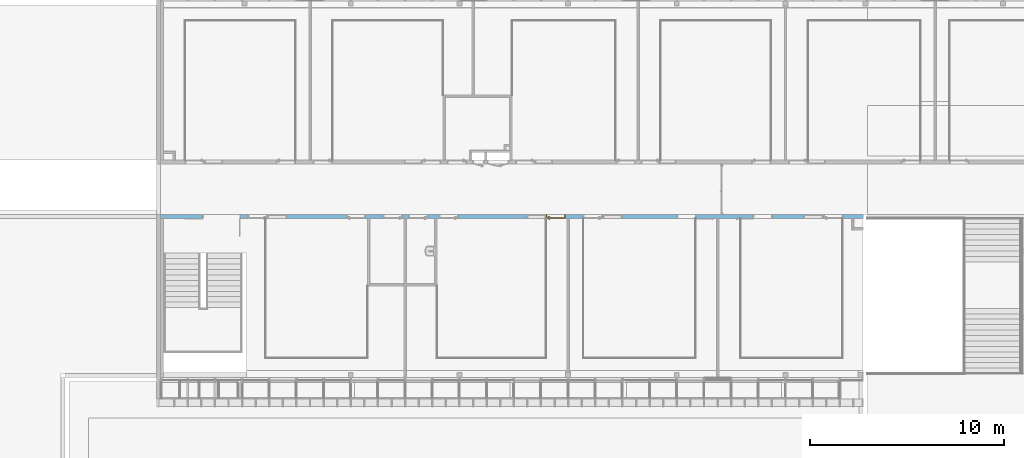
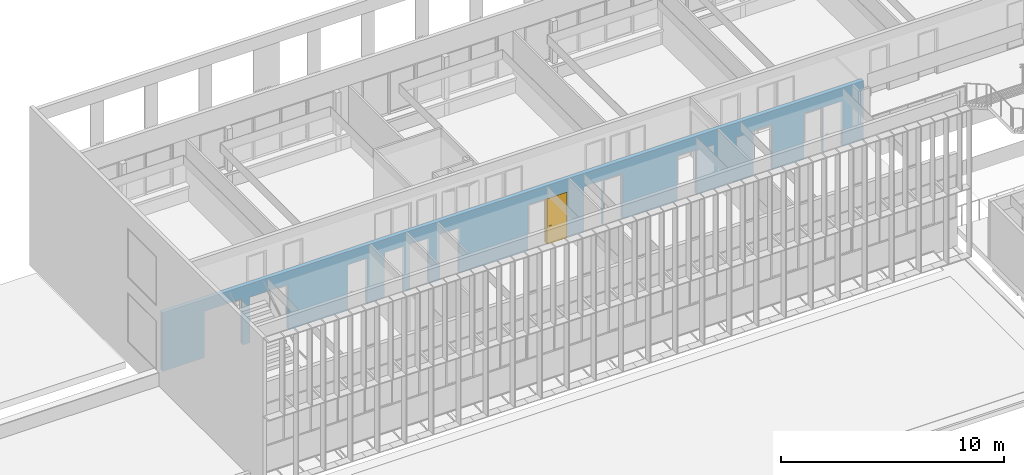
# One storey, part 43 of 106: 1 door, 15 openings, plus 1 element that does not belong to this part.
"""IFC2X3 building model written with IfcOpenShell, lengths in centimetres."""

from ifc_helpers import new_model, entity, si_unit, converted_unit, derived_unit, direction, frame, frame_2d, origin, place, context, subcontext, project, spatial, polyline, rectangle, extrude, clip, bounded_halfspace, faceted_brep, source, transform, mapped, material, material_list, layer, layer_set, layer_usage, type_object, type_shapes, element, fill, save


model = new_model("IFC2X3")

# Units and contexts
model_context = context("Model", 3, precision=0.001, world=origin(), true_north=direction((6.12303176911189e-17, 1.0)))
body_context = subcontext(model_context, "Body", "Model", "MODEL_VIEW")
ifc_project = project(units=[si_unit("LENGTHUNIT", "METRE", prefix="CENTI"), si_unit("AREAUNIT", "SQUARE_METRE"), si_unit("VOLUMEUNIT", "CUBIC_METRE"), converted_unit("PLANEANGLEUNIT", "DEGREE", entity("IfcRatioMeasure", 0.0174532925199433), si_unit("PLANEANGLEUNIT", "RADIAN"), dimensions=[0, 0, 0, 0, 0, 0, 0]), si_unit("MASSUNIT", "GRAM", prefix="KILO"), derived_unit("MASSDENSITYUNIT", [(si_unit("MASSUNIT", "GRAM", prefix="KILO"), 1), (si_unit("LENGTHUNIT", "METRE"), -3)]), si_unit("TIMEUNIT", "SECOND"), si_unit("FREQUENCYUNIT", "HERTZ"), si_unit("THERMODYNAMICTEMPERATUREUNIT", "DEGREE_CELSIUS"), derived_unit("THERMALTRANSMITTANCEUNIT", [(si_unit("MASSUNIT", "GRAM", prefix="KILO"), 1), (si_unit("THERMODYNAMICTEMPERATUREUNIT", "KELVIN"), -1), (si_unit("TIMEUNIT", "SECOND"), -3)]), derived_unit("VOLUMETRICFLOWRATEUNIT", [(si_unit("LENGTHUNIT", "METRE"), 3), (si_unit("TIMEUNIT", "SECOND"), -1)]), si_unit("ELECTRICCURRENTUNIT", "AMPERE"), si_unit("ELECTRICVOLTAGEUNIT", "VOLT"), si_unit("POWERUNIT", "WATT"), si_unit("FORCEUNIT", "NEWTON", prefix="KILO"), si_unit("ILLUMINANCEUNIT", "LUX"), si_unit("LUMINOUSFLUXUNIT", "LUMEN"), si_unit("LUMINOUSINTENSITYUNIT", "CANDELA"), derived_unit("USERDEFINED", [(si_unit("MASSUNIT", "GRAM", prefix="KILO"), -1), (si_unit("LENGTHUNIT", "METRE"), -2), (si_unit("TIMEUNIT", "SECOND"), 3), (si_unit("LUMINOUSFLUXUNIT", "LUMEN"), 1)]), derived_unit("LINEARVELOCITYUNIT", [(si_unit("LENGTHUNIT", "METRE"), 1), (si_unit("TIMEUNIT", "SECOND"), -1)]), si_unit("PRESSUREUNIT", "PASCAL"), derived_unit("USERDEFINED", [(si_unit("LENGTHUNIT", "METRE"), -2), (si_unit("MASSUNIT", "GRAM", prefix="KILO"), 1), (si_unit("TIMEUNIT", "SECOND"), -2)])], contexts=[model_context])

# Site, building, storey
site_placement = place(None, frame((-2781.94577612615, 7442.24238424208, 0.0)))
site = spatial("IfcSite", under=ifc_project, at=site_placement, Name="Default", CompositionType="ELEMENT")
building_placement = place(site_placement, origin())
building = spatial("IfcBuilding", under=site, at=building_placement, CompositionType="ELEMENT")
storey_placement = place(building_placement, frame((0.0, 0.0, 422.0)))
storey = spatial("IfcBuildingStorey", under=building, at=storey_placement, Name="Toiture - Cuisine", CompositionType="ELEMENT", Elevation=421.999999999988)

# Wall, openings, door
ifc_material_1 = material(Name="01 - Maçonnerie")
ifc_layer = layer(ifc_material_1, 20.0)
ifc_layer_set = layer_set([ifc_layer], Name="Mur de base:04 - Structure - béton - 20cm")
ifc_layer_usage = layer_usage(ifc_layer_set, "AXIS2", "NEGATIVE", 10.0)
wall_type = type_object("IfcWallType", Name="Mur de base:04 - Structure - béton - 20cm", PredefinedType="STANDARD", material=ifc_layer_set)
wall_placement = place(building_placement, frame((-4787.99987760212, -1100.0, 422.0), z_axis=(0.0, 0.0, 1.0), x_axis=(-1.0, 0.0, 0.0)))
wall = element("IfcWallStandardCase", 1, at=wall_placement, inside=storey, type_object=wall_type, material=ifc_layer_usage, Name="Mur de base:04 - Structure - béton - 20cm", ObjectType="Mur de base:04 - Structure - béton - 20cm", context=body_context, shape_type="Clipping", body=[
    clip(extrude(rectangle(XDim=3621.50000006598, YDim=20.0000000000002, at=frame_2d((1810.75000003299, 5.32907051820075e-14), x_axis=(-1.0, 0.0))), origin(), (0.0, 0.0, 1.0), 321.0), bounded_halfspace(frame((4.0, -10.0, 321.0), z_axis=(0.0, 0.0, -1.0), x_axis=(0.0, -1.0, 0.0)), True, frame((4.0, -10.0, 321.0)), polyline([(0.0, 0.0), (720.0, 0.0), (730.0, 0.0), (3617.50000006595, 0.0), (3617.50000006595, 20.0), (3602.20000006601, 20.0), (3077.50016406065, 20.0), (3075.50016406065, 20.0), (2550.5, 20.0), (2540.5, 20.0), (2362.50000003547, 20.0), (2352.50000003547, 20.0), (2203.5, 20.0), (2193.5, 20.0), (1632.5, 20.0), (1630.5, 20.0), (1522.50016406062, 20.0), (1512.50016406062, 20.0), (1440.5, 20.0), (1438.5, 20.0), (862.500000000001, 20.0), (860.5, 20.0), (750.500000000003, 20.0), (740.500000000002, 20.0), (630.500000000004, 20.0), (628.500000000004, 20.0), (104.500000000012, 20.0), (102.500000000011, 20.0), (56.0, 20.0), (46.0, 20.0), (0.0, 20.0), (0.0, 0.0)]))),
])
opening_1_placement = place(wall_placement, frame((3071.50016406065, -10.0, 0.0)))
element("IfcOpeningElement", 2, at=opening_1_placement, cuts=wall, Name="Int. Simple:PV (0.93m x 2.50m):1", ObjectType="Opening", context=body_context, shape_type="SweptSolid", body=[
    extrude(rectangle(XDim=248.500000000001, YDim=99.9999999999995, at=frame_2d((124.250000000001, 49.9999999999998), x_axis=(1.0, 0.0))), frame((0.0, 0.0, 0.0), z_axis=(0.0, 1.0, 0.0), x_axis=(0.0, 0.0, 1.0)), (0.0, 0.0, 1.0), 20.0),
])
opening_2_placement = place(wall_placement, frame((1534.5, -10.0, 0.0)))
opening_2 = element("IfcOpeningElement", 3, at=opening_2_placement, cuts=wall, Name="Int. Simple:PV (0.93m x 2.50m):1", ObjectType="Opening", context=body_context, shape_type="SweptSolid", body=[
    extrude(rectangle(XDim=248.500000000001, YDim=99.9999999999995, at=frame_2d((124.250000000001, 50.0), x_axis=(1.0, 0.0))), frame((0.0, 0.0, 0.0), z_axis=(0.0, 1.0, 0.0), x_axis=(0.0, 0.0, 1.0)), (0.0, 0.0, 1.0), 20.0),
])
opening_3_placement = place(wall_placement, frame((861.500000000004, -10.0, 0.0)))
element("IfcOpeningElement", 4, at=opening_3_placement, cuts=wall, Name="Int. Simple:PV (0.93m x 2.50m):1", ObjectType="Opening", context=body_context, shape_type="SweptSolid", body=[
    extrude(rectangle(XDim=248.500000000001, YDim=99.9999999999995, at=frame_2d((124.250000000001, 50.0), x_axis=(1.0, 0.0))), frame((0.0, 0.0, 0.0), z_axis=(0.0, 1.0, 0.0), x_axis=(0.0, 0.0, 1.0)), (0.0, 0.0, 1.0), 20.0),
])
opening_4_placement = place(wall_placement, frame((469.500000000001, -10.0, 0.0)))
element("IfcOpeningElement", 5, at=opening_4_placement, cuts=wall, Name="Int. Simple:PV (0.93m x 2.50m):1", ObjectType="Opening", context=body_context, shape_type="SweptSolid", body=[
    extrude(rectangle(XDim=248.500000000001, YDim=99.9999999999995, at=frame_2d((124.250000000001, 49.9999999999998), x_axis=(1.0, 0.0))), frame((0.0, 0.0, 0.0), z_axis=(0.0, 1.0, 0.0), x_axis=(0.0, 0.0, 1.0)), (0.0, 0.0, 1.0), 20.0),
])
opening_5_placement = place(wall_placement, frame((2971.50016406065, -10.0, 0.0)))
element("IfcOpeningElement", 6, at=opening_5_placement, cuts=wall, Name="châssis intérieur vitré:châssis intérieur vitré (h=270) R+1:1", ObjectType="Opening", context=body_context, shape_type="SweptSolid", body=[
    extrude(rectangle(XDim=250.0, YDim=99.9999999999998, at=frame_2d((125.0, 49.9999999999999), x_axis=(1.0, 0.0))), frame((0.0, 0.0, 0.0), z_axis=(0.0, 1.0, 0.0), x_axis=(0.0, 0.0, 1.0)), (0.0, 0.0, 1.0), 20.0),
])
opening_6_placement = place(wall_placement, frame((1634.50000000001, -10.0, 0.0)))
element("IfcOpeningElement", 7, at=opening_6_placement, cuts=wall, Name="châssis intérieur vitré:châssis intérieur vitré (h=270) R+1:1", ObjectType="Opening", context=body_context, shape_type="SweptSolid", body=[
    extrude(rectangle(XDim=250.0, YDim=99.9999999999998, at=frame_2d((125.0, 49.9999999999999), x_axis=(1.0, 0.0))), frame((0.0, 0.0, 0.0), z_axis=(0.0, 1.0, 0.0), x_axis=(0.0, 0.0, 1.0)), (0.0, 0.0, 1.0), 20.0),
])
opening_7_placement = place(wall_placement, frame((1243.0, -10.0, 0.0)))
element("IfcOpeningElement", 8, at=opening_7_placement, cuts=wall, Name="châssis intérieur vitré:châssis intérieur vitré (h=270) R+1:1", ObjectType="Opening", context=body_context, shape_type="SweptSolid", body=[
    extrude(rectangle(XDim=250.0, YDim=99.9999999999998, at=frame_2d((125.0, 49.9999999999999), x_axis=(1.0, 0.0))), frame((0.0, 0.0, 0.0), z_axis=(0.0, 1.0, 0.0), x_axis=(0.0, 0.0, 1.0)), (0.0, 0.0, 1.0), 20.0),
])
opening_8_placement = place(wall_placement, frame((208.0, -10.0, 0.0)))
element("IfcOpeningElement", 9, at=opening_8_placement, cuts=wall, Name="châssis intérieur vitré:châssis intérieur vitré (h=270) R+1:1", ObjectType="Opening", context=body_context, shape_type="SweptSolid", body=[
    extrude(rectangle(XDim=250.0, YDim=99.9999999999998, at=frame_2d((125.0, 49.9999999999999), x_axis=(1.0, 0.0))), frame((0.0, 0.0, 0.0), z_axis=(0.0, 1.0, 0.0), x_axis=(0.0, 0.0, 1.0)), (0.0, 0.0, 1.0), 20.0),
])
opening_9_placement = place(wall_placement, frame((2564.5, -10.0, 0.0)))
element("IfcOpeningElement", 10, at=opening_9_placement, cuts=wall, Name="Int. Simple:PV (0.93m x 2.50m):1", ObjectType="Opening", context=body_context, shape_type="SweptSolid", body=[
    extrude(rectangle(XDim=248.500000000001, YDim=99.9999999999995, at=frame_2d((124.250000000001, 50.0), x_axis=(1.0, 0.0))), frame((0.0, 0.0, 0.0), z_axis=(0.0, 1.0, 0.0), x_axis=(0.0, 0.0, 1.0)), (0.0, 0.0, 1.0), 20.0),
])
opening_10_placement = place(wall_placement, frame((2374.5, -10.0, 0.0)))
element("IfcOpeningElement", 11, at=opening_10_placement, cuts=wall, Name="Int. Simple:PP simple (0.93m x 2.50m):1", ObjectType="Opening", context=body_context, shape_type="SweptSolid", body=[
    extrude(rectangle(XDim=248.500000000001, YDim=99.9999999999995, at=frame_2d((124.250000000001, 49.9999999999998), x_axis=(1.0, 0.0))), frame((0.0, 0.0, 0.0), z_axis=(0.0, 1.0, 0.0), x_axis=(0.0, 0.0, 1.0)), (0.0, 0.0, 1.0), 20.0),
])
opening_11_placement = place(wall_placement, frame((2244.5, -10.0, 0.0)))
element("IfcOpeningElement", 12, at=opening_11_placement, cuts=wall, Name="Int. Simple:PP simple (0.93m x 2.50m):1", ObjectType="Opening", context=body_context, shape_type="SweptSolid", body=[
    extrude(rectangle(XDim=248.500000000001, YDim=99.9999999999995, at=frame_2d((124.250000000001, 49.9999999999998), x_axis=(1.0, 0.0))), frame((0.0, 0.0, 0.0), z_axis=(0.0, 1.0, 0.0), x_axis=(0.0, 0.0, 1.0)), (0.0, 0.0, 1.0), 20.0),
])
opening_12_placement = place(wall_placement, frame((2087.5, -10.0, 0.0)))
element("IfcOpeningElement", 13, at=opening_12_placement, cuts=wall, Name="Int. Simple:PV (0.93m x 2.50m):1", ObjectType="Opening", context=body_context, shape_type="SweptSolid", body=[
    extrude(rectangle(XDim=248.500000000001, YDim=99.9999999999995, at=frame_2d((124.250000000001, 49.9999999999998), x_axis=(1.0, 0.0))), frame((0.0, 0.0, 0.0), z_axis=(0.0, 1.0, 0.0), x_axis=(0.0, 0.0, 1.0)), (0.0, 0.0, 1.0), 20.0),
])
opening_13_placement = place(wall_placement, frame((1344.5, -10.0, 0.0)))
element("IfcOpeningElement", 14, at=opening_13_placement, cuts=wall, Name="Int. Simple:PV (0.93m x 2.50m):1", ObjectType="Opening", context=body_context, shape_type="SweptSolid", body=[
    extrude(rectangle(XDim=248.500000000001, YDim=99.9999999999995, at=frame_2d((124.250000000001, 49.9999999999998), x_axis=(1.0, 0.0))), frame((0.0, 0.0, 0.0), z_axis=(0.0, 1.0, 0.0), x_axis=(0.0, 0.0, 1.0)), (0.0, 0.0, 1.0), 20.0),
])
opening_14_placement = place(wall_placement, frame((106.500000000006, -10.0, 0.0)))
element("IfcOpeningElement", 15, at=opening_14_placement, cuts=wall, Name="Int. Simple:PV (0.93m x 2.50m):1", ObjectType="Opening", context=body_context, shape_type="SweptSolid", body=[
    extrude(rectangle(XDim=248.500000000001, YDim=99.9999999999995, at=frame_2d((124.250000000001, 50.0), x_axis=(1.0, 0.0))), frame((0.0, 0.0, 0.0), z_axis=(0.0, 1.0, 0.0), x_axis=(0.0, 0.0, 1.0)), (0.0, 0.0, 1.0), 20.0),
])
opening_15_placement = place(wall_placement, frame((3208.50000000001, -10.0, 0.0)))
element("IfcOpeningElement", 16, at=opening_15_placement, cuts=wall, Name="Int. Double:PP (1.90m x 2.50m):1", ObjectType="Opening", context=body_context, shape_type="SweptSolid", body=[
    extrude(rectangle(XDim=253.500000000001, YDim=197.0, at=frame_2d((126.750000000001, 98.5), x_axis=(1.0, 0.0))), frame((0.0, 0.0, 0.0), z_axis=(0.0, 1.0, 0.0), x_axis=(0.0, 0.0, 1.0)), (0.0, 0.0, 1.0), 20.0),
])
ifc_material_2 = material(Name="Finition Peinture - Blanc satiné")
ifc_material_3 = material(Name="Bois - Panneau de porte")
ifc_material_4 = material(Name="Bois - Cadre de porte")
ifc_material_list_1 = material_list([ifc_material_2, ifc_material_3, ifc_material_4])
ifc_material_list_2 = material_list([ifc_material_2, ifc_material_3, ifc_material_4])
door_style = type_object("IfcDoorStyle", Name="PV (0.93m x 2.50m)", ConstructionType="NOTDEFINED", OperationType="SINGLE_SWING_LEFT", ParameterTakesPrecedence=False, Sizeable=False, material=ifc_material_list_2)
shared_shape = source(origin(), body_context, "Body", "Brep", [
    faceted_brep([(10.5352761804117, -0.500000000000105, 86.6003983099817), (11.5000000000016, -0.500000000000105, 87.0), (11.5000000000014, -0.500000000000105, 108.0), (10.5352761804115, -0.500000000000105, 108.399601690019), (9.50000000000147, -0.500000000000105, 108.535898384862), (8.46472381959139, -0.500000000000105, 108.399601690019), (7.50000000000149, -0.500000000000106, 108.0), (7.50000000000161, -0.500000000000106, 87.0), (8.46472381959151, -0.500000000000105, 86.6003983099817), (9.50000000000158, -0.500000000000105, 86.464101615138), (10.5352761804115, 0.0, 108.399601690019), (11.5000000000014, 0.0, 108.0), (11.5000000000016, 0.0, 87.0), (10.5352761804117, 0.0, 86.6003983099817), (9.50000000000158, 0.0, 86.464101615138), (8.46472381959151, 0.0, 86.6003983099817), (7.50000000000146, 0.0, 87.0), (7.50000000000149, 0.0, 108.0), (8.46472381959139, 0.0, 108.399601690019), (9.50000000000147, 0.0, 108.535898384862)], [[[0, 1, 2, 3, 4, 5, 6, 7, 8, 9]], [[10, 11, 12, 13, 14, 15, 16, 17, 18, 19]], [[16, 15, 8, 7]], [[8, 15, 14, 9]], [[14, 13, 0, 9]], [[13, 12, 1, 0]], [[2, 1, 12, 11]], [[11, 10, 3, 2]], [[3, 10, 19, 4]], [[19, 18, 5, 4]], [[18, 17, 6, 5]], [[7, 6, 17, 16]]]),
    faceted_brep([(10.5352761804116, 4.0, 86.6003983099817), (11.5000000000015, 4.0, 87.0), (11.5000000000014, 4.0, 108.0), (10.5352761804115, 4.0, 108.399601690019), (9.50000000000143, 4.0, 108.535898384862), (8.46472381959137, 4.0, 108.399601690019), (7.50000000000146, 4.0, 108.0), (7.50000000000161, 4.0, 87.0), (8.46472381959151, 4.0, 86.6003983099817), (9.50000000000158, 4.0, 86.464101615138), (10.5352761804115, 4.49999999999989, 108.399601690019), (11.5000000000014, 4.49999999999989, 108.0), (11.5000000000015, 4.49999999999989, 87.0), (10.5352761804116, 4.49999999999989, 86.6003983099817), (9.50000000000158, 4.49999999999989, 86.464101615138), (8.46472381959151, 4.49999999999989, 86.6003983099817), (7.50000000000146, 4.49999999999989, 87.0), (7.50000000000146, 4.49999999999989, 108.0), (8.46472381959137, 4.49999999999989, 108.399601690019), (9.50000000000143, 4.49999999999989, 108.535898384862)], [[[0, 1, 2, 3, 4, 5, 6, 7, 8, 9]], [[10, 11, 12, 13, 14, 15, 16, 17, 18, 19]], [[11, 10, 3, 2]], [[3, 10, 19, 4]], [[19, 18, 5, 4]], [[18, 17, 6, 5]], [[7, 6, 17, 16]], [[16, 15, 8, 7]], [[8, 15, 14, 9]], [[14, 13, 0, 9]], [[13, 12, 1, 0]], [[2, 1, 12, 11]]]),
    faceted_brep([(9.29747013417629, -0.500000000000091, 100.778044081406), (9.70252986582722, -0.500000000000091, 100.778044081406), (10.1000000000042, -0.500000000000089, 100.699999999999), (10.1000000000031, -0.500000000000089, 99.3000000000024), (9.7025298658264, -0.500000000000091, 99.2219559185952), (9.29747013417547, -0.500000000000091, 99.221955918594), (8.8999999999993, -0.500000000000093, 99.2999999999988), (8.89999999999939, -0.500000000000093, 100.7), (8.89999999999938, -3.26509507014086, 100.7), (9.29747013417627, -3.10045754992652, 100.778044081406), (10.9023585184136, -4.70534593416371, 100.778044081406), (11.0701397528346, -4.30028620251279, 100.778044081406), (9.7025298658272, -2.93267631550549, 100.778044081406), (10.1000000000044, -2.76803879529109, 100.7), (10.1000000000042, -2.76803879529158, 99.3000000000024), (9.7025298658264, -2.93267631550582, 99.2219559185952), (11.0701397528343, -4.30028620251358, 99.2219559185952), (10.9023585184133, -4.70534593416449, 99.221955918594), (9.29747013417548, -3.10045754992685, 99.221955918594), (8.89999999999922, -3.26509507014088, 99.2999999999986), (10.7377209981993, -5.10281606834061, 100.7), (11.2347772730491, -3.90281606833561, 100.7), (11.2347772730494, -3.90281606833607, 99.3000000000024), (10.7377209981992, -5.10281606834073, 99.2999999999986), (19.5018640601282, -5.1028160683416, 99.2999999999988), (19.5018640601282, -4.70534593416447, 99.221955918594), (19.5018640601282, -4.30028620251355, 99.2219559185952), (19.5018640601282, -3.90281606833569, 99.3000000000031), (19.5018640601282, -3.90281606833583, 100.7), (19.5018640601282, -4.30028620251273, 100.778044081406), (19.5018640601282, -4.70534593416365, 100.778044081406), (19.5018640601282, -5.10281606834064, 100.699999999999), (14.7307697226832, -5.10281606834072, 100.7), (15.2860019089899, -4.5028160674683, 100.78786867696), (15.3683206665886, -3.9028160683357, 100.7), (15.3683206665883, -3.90281606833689, 99.3000000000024), (15.2860018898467, -4.50281607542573, 99.2121313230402), (14.7307700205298, -5.10281606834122, 99.2999999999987)], [[[0, 1, 2, 3, 4, 5, 6, 7]], [[8, 9, 0, 7]], [[9, 10, 11, 12, 1, 0]], [[12, 13, 2, 1]], [[3, 2, 13, 14]], [[14, 15, 4, 3]], [[15, 16, 17, 18, 5, 4]], [[18, 19, 6, 5]], [[7, 6, 19, 8]], [[20, 10, 9, 8]], [[11, 21, 13, 12]], [[14, 13, 21, 22]], [[22, 16, 15, 14]], [[17, 23, 19, 18]], [[8, 19, 23, 20]], [[24, 25, 26, 27, 28, 29, 30, 31]], [[32, 30, 33]], [[31, 30, 32]], [[10, 20, 32]], [[33, 34, 11]], [[21, 11, 34]], [[34, 29, 28]], [[30, 29, 33]], [[29, 34, 33]], [[10, 32, 33]], [[10, 33, 11]], [[22, 21, 34, 28, 27, 35]], [[35, 26, 36]], [[37, 36, 25]], [[22, 35, 16]], [[35, 27, 26]], [[24, 37, 25]], [[23, 17, 37]], [[37, 17, 36]], [[17, 16, 36]], [[16, 35, 36]], [[25, 36, 26]], [[20, 23, 37, 24, 31, 32]]]),
    faceted_brep([(9.29747013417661, 4.49999999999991, 100.778044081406), (8.89999999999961, 4.4999999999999, 100.7), (8.89999999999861, 4.4999999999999, 99.2999999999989), (9.29747013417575, 4.49999999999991, 99.221955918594), (9.70252986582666, 4.49999999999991, 99.2219559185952), (10.1000000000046, 4.49999999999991, 99.3000000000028), (10.1000000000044, 4.49999999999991, 100.7), (9.70252986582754, 4.49999999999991, 100.778044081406), (10.1000000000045, 6.7485204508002, 99.3000000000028), (10.1000000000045, 6.74852045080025, 100.7), (9.70252986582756, 6.91315797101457, 100.778044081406), (11.083890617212, 8.29451872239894, 100.778044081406), (10.916109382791, 8.69957845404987, 100.778044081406), (9.29747013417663, 7.0809392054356, 100.778044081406), (8.89999999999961, 7.24557672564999, 100.7), (8.89999999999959, 7.2455767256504, 99.2999999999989), (9.29747013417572, 7.08093920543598, 99.221955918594), (10.9161093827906, 8.69957845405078, 99.221955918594), (11.0838906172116, 8.29451872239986, 99.2219559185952), (9.70252986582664, 6.91315797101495, 99.2219559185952), (11.2485281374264, 7.89704858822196, 99.3000000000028), (11.2485281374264, 7.89704858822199, 100.7), (10.7514718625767, 9.09704858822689, 100.7), (10.7514718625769, 9.0970485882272, 99.2999999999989), (19.5045783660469, 7.89704858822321, 99.3000000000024), (19.5045783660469, 8.29451872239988, 99.2219559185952), (19.5045783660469, 8.6995784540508, 99.221955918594), (19.5045783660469, 9.09704858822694, 99.2999999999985), (19.5045783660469, 9.09704858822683, 100.7), (19.5045783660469, 8.69957845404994, 100.778044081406), (19.5045783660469, 8.29451872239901, 100.778044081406), (19.5045783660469, 7.89704858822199, 100.7), (15.3765520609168, 7.89704858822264, 99.3000000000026), (15.3765532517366, 7.89704858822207, 100.7), (15.294234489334, 8.49704858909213, 100.78786867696), (14.7445205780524, 9.09704858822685, 100.7), (14.7445204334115, 9.09704858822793, 99.2999999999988), (15.2942345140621, 8.49704858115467, 99.2121313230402)], [[[0, 1, 2, 3, 4, 5, 6, 7]], [[6, 5, 8, 9]], [[9, 10, 7, 6]], [[10, 11, 12, 13, 0, 7]], [[13, 14, 1, 0]], [[2, 1, 14, 15]], [[15, 16, 3, 2]], [[16, 17, 18, 19, 4, 3]], [[19, 8, 5, 4]], [[9, 8, 20, 21]], [[21, 11, 10, 9]], [[12, 22, 14, 13]], [[15, 14, 22, 23]], [[23, 17, 16, 15]], [[18, 20, 8, 19]], [[24, 25, 26, 27, 28, 29, 30, 31]], [[21, 20, 32, 24, 31, 33]], [[33, 30, 34]], [[35, 34, 29]], [[21, 33, 11]], [[33, 31, 30]], [[28, 35, 29]], [[22, 12, 35]], [[35, 12, 34]], [[12, 11, 34]], [[11, 33, 34]], [[29, 34, 30]], [[22, 35, 28, 27, 36, 23]], [[36, 26, 37]], [[27, 26, 36]], [[17, 23, 36]], [[37, 32, 18]], [[20, 18, 32]], [[32, 25, 24]], [[26, 25, 37]], [[25, 32, 37]], [[17, 36, 37]], [[17, 37, 18]]]),
    faceted_brep([(3.50000000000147, 4.0, 245.0), (96.5000000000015, 4.0, 245.0), (96.5000000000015, 4.0, 0.0), (3.50000000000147, 4.0, 0.0), (3.50000000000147, 0.0, 245.0), (3.50000000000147, 0.0, 0.0), (96.5000000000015, 0.0, 0.0), (96.5000000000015, 0.0, 245.0)], [[[0, 1, 2, 3]], [[4, 5, 6, 7]], [[1, 0, 4, 7]], [[2, 1, 7, 6]], [[3, 2, 6, 5]], [[0, 3, 5, 4]]]),
    faceted_brep([(0.0, 20.0, 0.0), (-1.50000000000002, 20.0, 0.0), (-1.50000000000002, 20.5000000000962, 0.0), (5.0, 20.5000000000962, 0.0), (5.0, 4.0, 0.0), (3.50000000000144, 4.0, 0.0), (3.50000000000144, -0.500000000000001, 0.0), (-1.50000000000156, -0.500000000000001, 0.0), (-1.50000000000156, 0.0, 0.0), (0.0, 0.0, 0.0), (0.0, 20.0, 248.500000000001), (100.0, 20.0, 248.500000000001), (100.0, 20.0, 0.0), (101.5, 20.0, 0.0), (101.5, 20.0, 250.0), (-1.50000000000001, 20.0, 250.0), (-1.50000000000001, 20.5000000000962, 250.0), (101.5, 20.5000000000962, 250.0), (101.5, 20.5000000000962, 0.0), (95.0, 20.5000000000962, 0.0), (95.0, 20.5000000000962, 243.5), (5.0, 20.5000000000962, 243.5), (5.0, 4.0, 243.5), (95.0, 4.0, 243.5), (95.0, 4.0, 0.0), (96.499999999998, 4.0, 0.0), (96.499999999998, 4.0, 245.0), (3.50000000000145, 4.0, 245.0), (3.50000000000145, -0.500000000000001, 245.0), (96.499999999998, -0.500000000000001, 245.0), (96.499999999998, -0.500000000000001, 0.0), (101.500000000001, -0.500000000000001, 0.0), (101.500000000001, -0.500000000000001, 250.0), (-1.50000000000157, -0.500000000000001, 250.0), (-1.50000000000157, 0.0, 250.0), (101.500000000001, 0.0, 250.0), (101.500000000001, 0.0, 0.0), (100.0, 0.0, 0.0), (100.0, 0.0, 248.500000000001), (0.0, 0.0, 248.500000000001)], [[[0, 1, 2, 3, 4, 5, 6, 7, 8, 9]], [[1, 0, 10, 11, 12, 13, 14, 15]], [[2, 1, 15, 16]], [[3, 2, 16, 17, 18, 19, 20, 21]], [[3, 21, 22, 4]], [[5, 4, 22, 23, 24, 25, 26, 27]], [[5, 27, 28, 6]], [[7, 6, 28, 29, 30, 31, 32, 33]], [[8, 7, 33, 34]], [[9, 8, 34, 35, 36, 37, 38, 39]], [[0, 9, 39, 10]], [[11, 38, 37, 12]], [[12, 37, 36, 31, 30, 25, 24, 19, 18, 13]], [[17, 14, 13, 18]], [[23, 20, 19, 24]], [[29, 26, 25, 30]], [[35, 32, 31, 36]], [[16, 15, 14, 17]], [[22, 21, 20, 23]], [[28, 27, 26, 29]], [[34, 33, 32, 35]], [[10, 39, 38, 11]]]),
])
type_shapes(door_style, [shared_shape])
door_placement = place(opening_2_placement, frame((100.0, 20.0, 0.0), z_axis=(0.0, 0.0, 1.0), x_axis=(-1.0, 0.0, 0.0)))
door = element("IfcDoor", 17, at=door_placement, inside=storey, type_object=door_style, material=ifc_material_list_1, Name="Int. Simple:PV (0.93m x 2.50m)", ObjectType="Int. Simple:PV (0.93m x 2.50m)", OverallHeight=248.500000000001, OverallWidth=99.9999999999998, context=body_context, shape_type="MappedRepresentation", body=[
    mapped(shared_shape, transform((0.0, 0.0, 0.0), scale=1.0)),
])
fill(opening_2, door)

save(model, "model.ifc")
